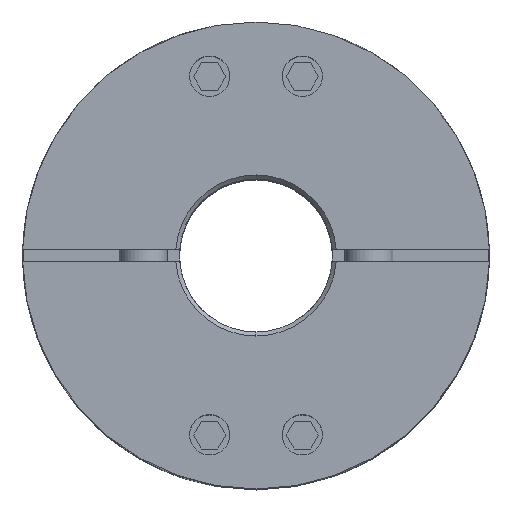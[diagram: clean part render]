
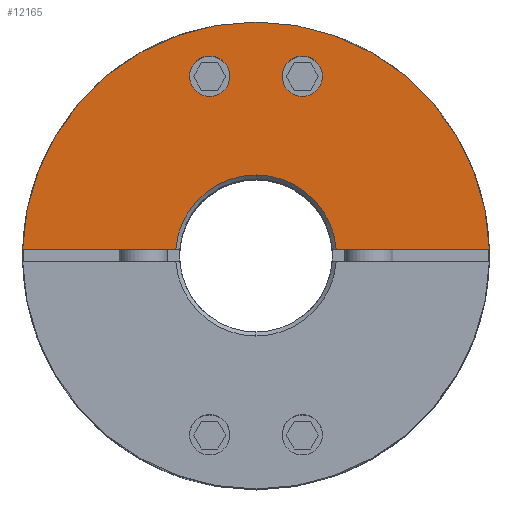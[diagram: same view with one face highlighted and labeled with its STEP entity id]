
A CAD part, top view. The second image highlights one B-rep face of the part: STEP entity #12165.
In plain terms, the highlighted planar face has unit normal (0, 0, 1).
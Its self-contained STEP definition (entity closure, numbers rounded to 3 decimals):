
#4729=CARTESIAN_POINT('',(5.759,24.767,35.75));
#4730=VERTEX_POINT('',#4729);
#4739=CARTESIAN_POINT('',(5.759,19.767,35.75));
#4740=VERTEX_POINT('',#4739);
#4741=CARTESIAN_POINT('',(5.759,22.267,35.75));
#4742=DIRECTION('',(0.0,0.0,-1.0));
#4743=DIRECTION('',(0.0,1.0,0.0));
#4744=AXIS2_PLACEMENT_3D('',#4741,#4742,#4743);
#4745=CIRCLE('',#4744,2.5);
#4746=EDGE_CURVE('',#4740,#4730,#4745,.T.);
#4771=CARTESIAN_POINT('',(-5.759,24.767,35.75));
#4772=VERTEX_POINT('',#4771);
#4781=CARTESIAN_POINT('',(-5.759,19.767,35.75));
#4782=VERTEX_POINT('',#4781);
#4783=CARTESIAN_POINT('',(-5.759,22.267,35.75));
#4784=DIRECTION('',(0.0,0.0,-1.0));
#4785=DIRECTION('',(0.0,1.0,0.0));
#4786=AXIS2_PLACEMENT_3D('',#4783,#4784,#4785);
#4787=CIRCLE('',#4786,2.5);
#4788=EDGE_CURVE('',#4782,#4772,#4787,.T.);
#5025=CARTESIAN_POINT('',(0.,29.0,35.75));
#5026=VERTEX_POINT('',#5025);
#5174=CARTESIAN_POINT('',(-28.99,0.75,35.75));
#5175=VERTEX_POINT('',#5174);
#5182=CARTESIAN_POINT('',(0.,0.0,35.75));
#5183=DIRECTION('',(0.0,0.0,-1.0));
#5184=DIRECTION('',(0.0,1.0,0.0));
#5185=AXIS2_PLACEMENT_3D('',#5182,#5183,#5184);
#5186=CIRCLE('',#5185,29.0);
#5187=EDGE_CURVE('',#5175,#5026,#5186,.T.);
#5359=CARTESIAN_POINT('',(0.,10.0,35.75));
#5360=VERTEX_POINT('',#5359);
#5376=CARTESIAN_POINT('',(9.972,0.75,35.75));
#5377=VERTEX_POINT('',#5376);
#5391=CARTESIAN_POINT('',(0.,0.0,35.75));
#5392=DIRECTION('',(0.0,0.0,1.0));
#5393=DIRECTION('',(0.0,1.0,0.0));
#5394=AXIS2_PLACEMENT_3D('',#5391,#5392,#5393);
#5395=CIRCLE('',#5394,10.0);
#5396=EDGE_CURVE('',#5377,#5360,#5395,.T.);
#11671=CARTESIAN_POINT('',(-9.972,0.75,35.75));
#11672=VERTEX_POINT('',#11671);
#11673=CARTESIAN_POINT('',(0.,0.0,35.75));
#11674=DIRECTION('',(0.0,0.0,1.0));
#11675=DIRECTION('',(0.0,1.0,0.0));
#11676=AXIS2_PLACEMENT_3D('',#11673,#11674,#11675);
#11677=CIRCLE('',#11676,10.0);
#11678=EDGE_CURVE('',#5360,#11672,#11677,.T.);
#11703=CARTESIAN_POINT('',(-28.99,0.75,35.75));
#11704=DIRECTION('',(1.0,0.0,0.0));
#11705=VECTOR('',#11704,19.018);
#11706=LINE('',#11703,#11705);
#11707=EDGE_CURVE('',#5175,#11672,#11706,.T.);
#11739=CARTESIAN_POINT('',(28.99,0.75,35.75));
#11740=VERTEX_POINT('',#11739);
#11747=CARTESIAN_POINT('',(9.972,0.75,35.75));
#11748=DIRECTION('',(1.0,0.0,0.0));
#11749=VECTOR('',#11748,19.018);
#11750=LINE('',#11747,#11749);
#11751=EDGE_CURVE('',#5377,#11740,#11750,.T.);
#11866=CARTESIAN_POINT('',(0.,0.0,35.75));
#11867=DIRECTION('',(0.0,0.0,-1.0));
#11868=DIRECTION('',(0.0,1.0,0.0));
#11869=AXIS2_PLACEMENT_3D('',#11866,#11867,#11868);
#11870=CIRCLE('',#11869,29.0);
#11871=EDGE_CURVE('',#5026,#11740,#11870,.T.);
#12104=CARTESIAN_POINT('',(-5.759,22.267,35.75));
#12105=DIRECTION('',(0.0,0.0,-1.0));
#12106=DIRECTION('',(0.0,1.0,0.0));
#12107=AXIS2_PLACEMENT_3D('',#12104,#12105,#12106);
#12108=CIRCLE('',#12107,2.5);
#12109=EDGE_CURVE('',#4772,#4782,#12108,.T.);
#12122=CARTESIAN_POINT('',(5.759,22.267,35.75));
#12123=DIRECTION('',(0.0,0.0,-1.0));
#12124=DIRECTION('',(0.0,1.0,0.0));
#12125=AXIS2_PLACEMENT_3D('',#12122,#12123,#12124);
#12126=CIRCLE('',#12125,2.5);
#12127=EDGE_CURVE('',#4730,#4740,#12126,.T.);
#12144=CARTESIAN_POINT('',(0.,2.636,35.75));
#12145=DIRECTION('',(0.0,0.0,1.0));
#12146=DIRECTION('',(0.0,1.0,0.0));
#12147=AXIS2_PLACEMENT_3D('',#12144,#12145,#12146);
#12148=PLANE('',#12147);
#12149=ORIENTED_EDGE('',*,*,#5396,.F.);
#12150=ORIENTED_EDGE('',*,*,#11751,.T.);
#12151=ORIENTED_EDGE('',*,*,#11871,.F.);
#12152=ORIENTED_EDGE('',*,*,#5187,.F.);
#12153=ORIENTED_EDGE('',*,*,#11707,.T.);
#12154=ORIENTED_EDGE('',*,*,#11678,.F.);
#12155=EDGE_LOOP('',(#12149,#12150,#12151,#12152,#12153,#12154));
#12156=FACE_OUTER_BOUND('',#12155,.T.);
#12157=ORIENTED_EDGE('',*,*,#12109,.T.);
#12158=ORIENTED_EDGE('',*,*,#4788,.T.);
#12159=EDGE_LOOP('',(#12157,#12158));
#12160=FACE_BOUND('',#12159,.T.);
#12161=ORIENTED_EDGE('',*,*,#12127,.T.);
#12162=ORIENTED_EDGE('',*,*,#4746,.T.);
#12163=EDGE_LOOP('',(#12161,#12162));
#12164=FACE_BOUND('',#12163,.T.);
#12165=ADVANCED_FACE('',(#12156,#12160,#12164),#12148,.T.);
